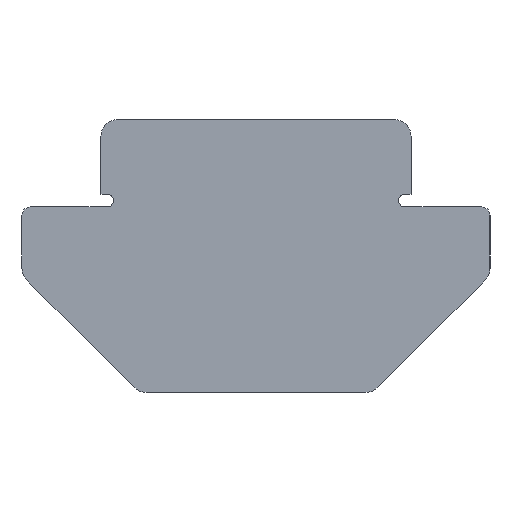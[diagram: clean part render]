
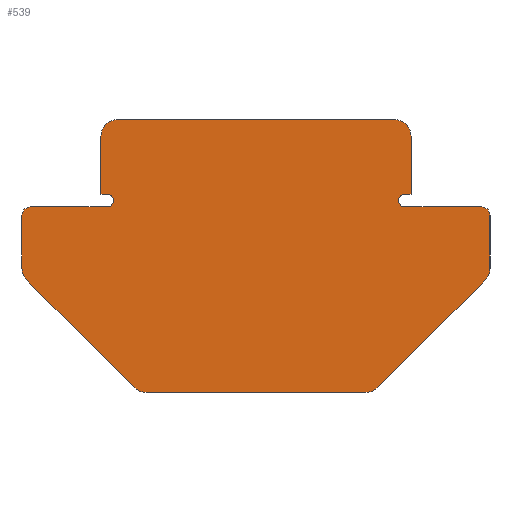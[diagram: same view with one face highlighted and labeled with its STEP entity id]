
A CAD part, left-side view. The second image highlights one B-rep face of the part: STEP entity #539.
In plain terms, the highlighted planar face has unit normal (-1, 0, 0).
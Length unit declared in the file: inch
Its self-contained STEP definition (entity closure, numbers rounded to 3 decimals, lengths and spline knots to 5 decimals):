
#71=DIRECTION('',(0.,0.,1.));
#72=VECTOR('',#71,0.06372);
#73=CARTESIAN_POINT('',(0.,-0.2815,0.14928));
#74=LINE('',#73,#72);
#75=CARTESIAN_POINT('',(0.,-0.2615,0.14928));
#76=DIRECTION('',(-1.,0.,0.));
#77=DIRECTION('',(0.,-0.707,-0.707));
#78=AXIS2_PLACEMENT_3D('',#75,#76,#77);
#80=DIRECTION('',(0.,-0.707,0.707));
#81=VECTOR('',#80,0.18284);
#82=CARTESIAN_POINT('',(0.,-0.14636,
0.00586));
#83=LINE('',#82,#81);
#84=CARTESIAN_POINT('',(0.,-0.13222,0.02));
#85=DIRECTION('',(-1.,0.,0.));
#86=DIRECTION('',(0.,0.,-1.));
#87=AXIS2_PLACEMENT_3D('',#84,#85,#86);
#89=DIRECTION('',(0.,-1.,0.));
#90=VECTOR('',#89,0.26443);
#91=CARTESIAN_POINT('',(0.,0.13222,0.));
#92=LINE('',#91,#90);
#93=CARTESIAN_POINT('',(0.,0.13222,0.02));
#94=DIRECTION('',(-1.,0.,0.));
#95=DIRECTION('',(0.,0.707,-0.707));
#96=AXIS2_PLACEMENT_3D('',#93,#94,#95);
#98=DIRECTION('',(0.,-0.707,-0.707));
#99=VECTOR('',#98,0.18284);
#100=CARTESIAN_POINT('',(0.,0.27564,
0.13514));
#101=LINE('',#100,#99);
#102=CARTESIAN_POINT('',(0.,0.2615,0.14928));
#103=DIRECTION('',(-1.,0.,0.));
#104=DIRECTION('',(0.,1.,0.));
#105=AXIS2_PLACEMENT_3D('',#102,#103,#104);
#107=DIRECTION('',(0.,0.,-1.));
#108=VECTOR('',#107,0.06372);
#109=CARTESIAN_POINT('',(0.,0.2815,0.213));
#110=LINE('',#109,#108);
#111=CARTESIAN_POINT('',(0.,0.2715,0.213));
#112=DIRECTION('',(-1.,0.,0.));
#113=DIRECTION('',(0.,0.,1.));
#114=AXIS2_PLACEMENT_3D('',#111,#112,#113);
#116=DIRECTION('',(0.,1.,0.));
#117=VECTOR('',#116,0.0925);
#118=CARTESIAN_POINT('',(0.,0.179,0.223));
#119=LINE('',#118,#117);
#120=CARTESIAN_POINT('',(0.,0.179,0.2305));
#121=DIRECTION('',(1.,0.,0.));
#122=DIRECTION('',(0.,0.,1.));
#123=AXIS2_PLACEMENT_3D('',#120,#121,#122);
#125=DIRECTION('',(0.,-1.,0.));
#126=VECTOR('',#125,0.0075);
#127=CARTESIAN_POINT('',(0.,0.1865,0.238));
#128=LINE('',#127,#126);
#129=DIRECTION('',(0.,0.,-1.));
#130=VECTOR('',#129,0.07);
#131=CARTESIAN_POINT('',(0.,0.1865,0.308));
#132=LINE('',#131,#130);
#133=CARTESIAN_POINT('',(0.,0.1665,0.308));
#134=DIRECTION('',(-1.,0.,0.));
#135=DIRECTION('',(0.,0.,1.));
#136=AXIS2_PLACEMENT_3D('',#133,#134,#135);
#138=DIRECTION('',(0.,1.,0.));
#139=VECTOR('',#138,0.333);
#140=CARTESIAN_POINT('',(0.,-0.1665,0.328));
#141=LINE('',#140,#139);
#142=CARTESIAN_POINT('',(0.,-0.1665,0.308));
#143=DIRECTION('',(-1.,0.,0.));
#144=DIRECTION('',(0.,-1.,0.));
#145=AXIS2_PLACEMENT_3D('',#142,#143,#144);
#147=DIRECTION('',(0.,0.,1.));
#148=VECTOR('',#147,0.07);
#149=CARTESIAN_POINT('',(0.,-0.1865,0.238));
#150=LINE('',#149,#148);
#151=DIRECTION('',(0.,-1.,0.));
#152=VECTOR('',#151,0.0075);
#153=CARTESIAN_POINT('',(0.,-0.179,0.238));
#154=LINE('',#153,#152);
#155=CARTESIAN_POINT('',(0.,-0.179,0.2305));
#156=DIRECTION('',(1.,0.,0.));
#157=DIRECTION('',(0.,0.,-1.));
#158=AXIS2_PLACEMENT_3D('',#155,#156,#157);
#160=DIRECTION('',(0.,1.,0.));
#161=VECTOR('',#160,0.0925);
#162=CARTESIAN_POINT('',(0.,-0.2715,0.223));
#163=LINE('',#162,#161);
#164=CARTESIAN_POINT('',(0.,-0.2715,0.213));
#165=DIRECTION('',(-1.,0.,0.));
#166=DIRECTION('',(0.,-1.,0.));
#167=AXIS2_PLACEMENT_3D('',#164,#165,#166);
#313=CARTESIAN_POINT('',(0.,-0.179,0.223));
#314=CARTESIAN_POINT('',(0.,-0.179,0.238));
#315=VERTEX_POINT('',#313);
#316=VERTEX_POINT('',#314);
#318=CARTESIAN_POINT('',(0.,-0.2715,0.223));
#320=VERTEX_POINT('',#318);
#321=CARTESIAN_POINT('',(0.,-0.1665,0.328));
#322=CARTESIAN_POINT('',(0.,0.1665,0.328));
#323=VERTEX_POINT('',#321);
#324=VERTEX_POINT('',#322);
#325=CARTESIAN_POINT('',(0.,0.13222,0.));
#326=CARTESIAN_POINT('',(0.,-0.13222,0.));
#327=VERTEX_POINT('',#325);
#328=VERTEX_POINT('',#326);
#329=CARTESIAN_POINT('',(0.,0.1865,0.308));
#330=CARTESIAN_POINT('',(0.,0.1865,0.238));
#331=VERTEX_POINT('',#329);
#332=VERTEX_POINT('',#330);
#333=CARTESIAN_POINT('',(0.,0.179,0.238));
#334=VERTEX_POINT('',#333);
#335=CARTESIAN_POINT('',(0.,-0.2815,0.213));
#337=VERTEX_POINT('',#335);
#347=CARTESIAN_POINT('',(0.,-0.1865,0.238));
#348=VERTEX_POINT('',#347);
#361=CARTESIAN_POINT('',(0.,-0.2815,0.14928));
#362=VERTEX_POINT('',#361);
#363=CARTESIAN_POINT('',(0.,-0.27564,0.13514));
#364=VERTEX_POINT('',#363);
#365=CARTESIAN_POINT('',(0.,0.2815,0.14928));
#367=VERTEX_POINT('',#365);
#370=CARTESIAN_POINT('',(0.,0.2815,0.213));
#372=VERTEX_POINT('',#370);
#375=CARTESIAN_POINT('',(0.,-0.14636,
0.00586));
#376=VERTEX_POINT('',#375);
#380=CARTESIAN_POINT('',(0.,0.179,0.223));
#382=VERTEX_POINT('',#380);
#383=CARTESIAN_POINT('',(0.,-0.1865,0.308));
#384=VERTEX_POINT('',#383);
#385=CARTESIAN_POINT('',(0.,0.2715,0.223));
#386=VERTEX_POINT('',#385);
#391=CARTESIAN_POINT('',(0.,0.27564,0.13514));
#392=VERTEX_POINT('',#391);
#407=CARTESIAN_POINT('',(0.,0.14636,
0.00586));
#408=VERTEX_POINT('',#407);
#490=CARTESIAN_POINT('',(0.,-0.179,0.2305));
#491=DIRECTION('',(1.,0.,0.));
#492=DIRECTION('',(0.,0.,-1.));
#493=AXIS2_PLACEMENT_3D('',#490,#491,#492);
#494=PLANE('',#493);
#495=ORIENTED_EDGE('',*,*,#418,.F.);
#497=ORIENTED_EDGE('',*,*,#496,.F.);
#499=ORIENTED_EDGE('',*,*,#498,.F.);
#501=ORIENTED_EDGE('',*,*,#500,.F.);
#503=ORIENTED_EDGE('',*,*,#502,.F.);
#505=ORIENTED_EDGE('',*,*,#504,.F.);
#507=ORIENTED_EDGE('',*,*,#506,.F.);
#509=ORIENTED_EDGE('',*,*,#508,.F.);
#511=ORIENTED_EDGE('',*,*,#510,.F.);
#513=ORIENTED_EDGE('',*,*,#512,.F.);
#515=ORIENTED_EDGE('',*,*,#514,.F.);
#517=ORIENTED_EDGE('',*,*,#516,.F.);
#519=ORIENTED_EDGE('',*,*,#518,.F.);
#521=ORIENTED_EDGE('',*,*,#520,.F.);
#523=ORIENTED_EDGE('',*,*,#522,.F.);
#525=ORIENTED_EDGE('',*,*,#524,.F.);
#527=ORIENTED_EDGE('',*,*,#526,.F.);
#529=ORIENTED_EDGE('',*,*,#528,.F.);
#531=ORIENTED_EDGE('',*,*,#530,.F.);
#533=ORIENTED_EDGE('',*,*,#532,.F.);
#535=ORIENTED_EDGE('',*,*,#534,.F.);
#536=ORIENTED_EDGE('',*,*,#482,.F.);
#537=EDGE_LOOP('',(#495,#497,#499,#501,#503,#505,#507,#509,#511,#513,#515,#517,
#519,#521,#523,#525,#527,#529,#531,#533,#535,#536));
#538=FACE_OUTER_BOUND('',#537,.F.);
#79=CIRCLE('',#78,0.02);
#88=CIRCLE('',#87,0.02);
#97=CIRCLE('',#96,0.02);
#106=CIRCLE('',#105,0.02);
#115=CIRCLE('',#114,0.01);
#124=CIRCLE('',#123,0.0075);
#137=CIRCLE('',#136,0.02);
#146=CIRCLE('',#145,0.02);
#159=CIRCLE('',#158,0.0075);
#168=CIRCLE('',#167,0.01);
#418=EDGE_CURVE('',#362,#337,#74,.T.);
#482=EDGE_CURVE('',#337,#320,#168,.T.);
#496=EDGE_CURVE('',#364,#362,#79,.T.);
#498=EDGE_CURVE('',#376,#364,#83,.T.);
#500=EDGE_CURVE('',#328,#376,#88,.T.);
#502=EDGE_CURVE('',#327,#328,#92,.T.);
#504=EDGE_CURVE('',#408,#327,#97,.T.);
#506=EDGE_CURVE('',#392,#408,#101,.T.);
#508=EDGE_CURVE('',#367,#392,#106,.T.);
#510=EDGE_CURVE('',#372,#367,#110,.T.);
#512=EDGE_CURVE('',#386,#372,#115,.T.);
#514=EDGE_CURVE('',#382,#386,#119,.T.);
#516=EDGE_CURVE('',#334,#382,#124,.T.);
#518=EDGE_CURVE('',#332,#334,#128,.T.);
#520=EDGE_CURVE('',#331,#332,#132,.T.);
#522=EDGE_CURVE('',#324,#331,#137,.T.);
#524=EDGE_CURVE('',#323,#324,#141,.T.);
#526=EDGE_CURVE('',#384,#323,#146,.T.);
#528=EDGE_CURVE('',#348,#384,#150,.T.);
#530=EDGE_CURVE('',#316,#348,#154,.T.);
#532=EDGE_CURVE('',#315,#316,#159,.T.);
#534=EDGE_CURVE('',#320,#315,#163,.T.);
#539=ADVANCED_FACE('',(#538),#494,.F.);
